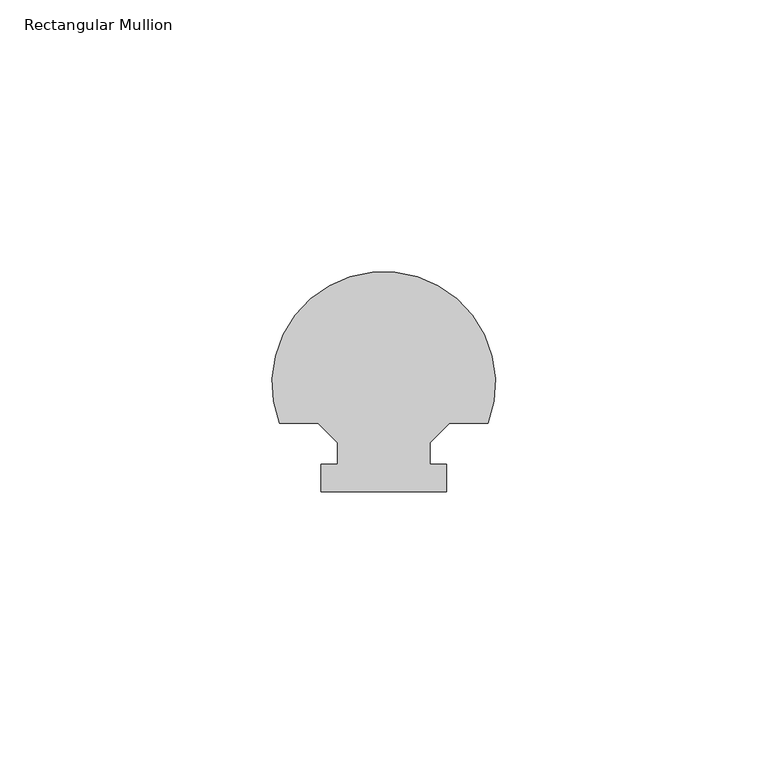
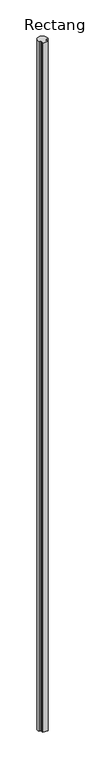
"""IFC4 building model written with IfcOpenShell, lengths in millimetres: member geometry, Rectangular Mullion : Batten_Aluminium_Modinex_Austratus_Linear_Dowel_AfricanEbony."""

from ifc_helpers import new_model, si_unit, point, frame, frame_2d, origin, place, context, project, spatial, polyline, circle_curve, trimmed, segment, composite_curve, outline, extrude, source, transform, mapped, element, save


def rectangular_mullion_d8d867ca(model_context):
    return source(origin(), model_context, "Body", "SweptSolid", [
        extrude(outline(composite_curve([segment(polyline([(-8.5, 9.0), (-12.0355339, 12.5355339), (-19.1853381, 12.5355339)]), True, "CONTINUOUS"), segment(trimmed(circle_curve(frame_2d((0.0, 19.844679)), 20.5304847), [point((-19.1853381, 12.5355339))], [point((19.1853381, 12.5355339))], False, "CARTESIAN"), True, "CONTINUOUS"), segment(polyline([(19.1853381, 12.5355339), (12.0355339, 12.5355339), (8.5, 9.0), (8.5, 5.0), (11.5, 5.0), (11.5, 0.0), (-11.5, 0.0), (-11.5, 5.0), (-8.5, 5.0), (-8.5, 9.0)]), True, "CONTINUOUS")], self_intersect=False)), frame((0.0, 0.0, -3000.0), z_axis=(0.0, 0.0, 1.0), x_axis=(1.0, 0.0, 0.0)), (0.0, 0.0, 1.0), 3000.0),
    ])


if __name__ == "__main__":
    model = new_model("IFC4")
    model_context = context("Model", 3, world=origin())
    ifc_project = project(units=[si_unit("LENGTHUNIT", "METRE", prefix="MILLI")], contexts=[model_context])
    site = spatial("IfcSite", under=ifc_project)
    building = spatial("IfcBuilding", under=site)
    placement = place(None, origin())
    rectangular_mullion_shape = rectangular_mullion_d8d867ca(model_context)
    element("IfcMember", 1, ObjectType="Rectangular Mullion : Batten_Aluminium_Modinex_Austratus_Linear_Dowel_AfricanEbony", at=placement, inside=building, context=model_context, shape_type="MappedRepresentation", body=[
        mapped(rectangular_mullion_shape, transform((0.0, 0.0, 0.0), x_axis=(1.0, 0.0, 0.0), y_axis=(0.0, 1.0, 0.0), z_axis=(0.0, 0.0, 1.0))),
    ])
    save(model, "model.ifc")
